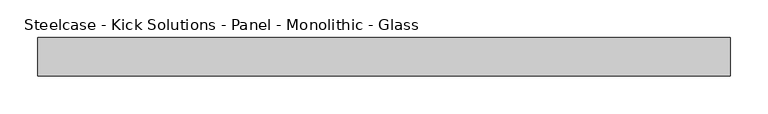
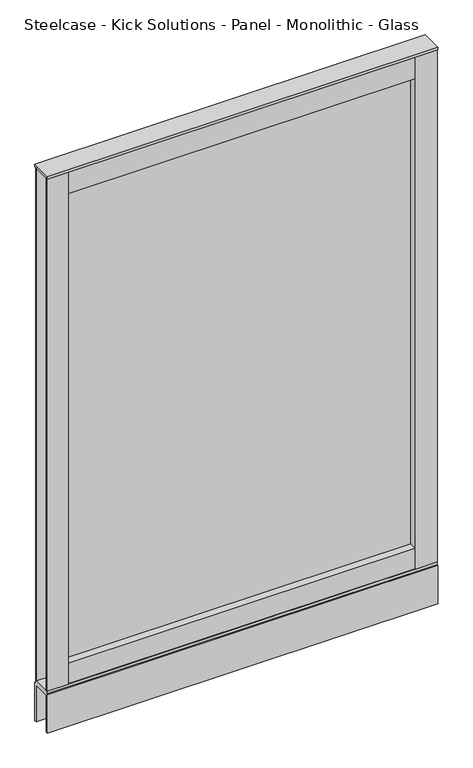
"""IFC4 building model written with IfcOpenShell, lengths in millimetres: furniture geometry, Steelcase - Kick Solutions - Panel - Monolithic - Glass : 54H x 36W."""

import ifcopenshell
import ifcopenshell.guid

model = None  # the IFC model being written
_history = None  # IfcOwnerHistory: only IFC2X3 demands one
_inside = {}  # id of a spatial element -> (the spatial element, [elements in it])
_under = {}  # id of a project, library or spatial element -> (it, [spatial elements below it])
_declared = {}  # id of a project -> (the project, [libraries it declares])
_typed = {}  # id of a type object -> (the type object, [elements of that type])
_made_of = {}  # id of a material, layer set ... -> (it, [elements and type objects made of it])


def new_model(schema):
    """Start an empty IFC model of exactly this schema.

    Asked for "IFC4X3", IfcOpenShell would pick the latest addendum, in which some entities
    have other attributes; the version numbers below select the first issue.
    IFC2X3 requires an IfcOwnerHistory on every rooted entity: one is made here for all.
    """
    global model, _history
    if schema == "IFC4X3":
        model = ifcopenshell.file(schema_version=(4, 3, 0, 0))
    else:
        model = ifcopenshell.file(schema=schema)
    _inside.clear()
    _under.clear()
    _declared.clear()
    _typed.clear()
    _made_of.clear()
    _history = None
    if model.schema == "IFC2X3":
        org = make("IfcOrganization", Name="unknown")
        user = make(
            "IfcPersonAndOrganization",
            ThePerson=make("IfcPerson", FamilyName="unknown"),
            TheOrganization=org,
        )
        app = make(
            "IfcApplication",
            ApplicationDeveloper=org,
            Version="unknown",
            ApplicationFullName="unknown",
            ApplicationIdentifier="unknown",
        )
        _history = make(
            "IfcOwnerHistory",
            OwningUser=user,
            OwningApplication=app,
            ChangeAction="ADDED",
            CreationDate=0,
        )
    return model


def make(cls, **values):
    """One entity of the class cls with the attributes given. An attribute that is None is left unset."""
    return model.create_entity(
        cls, **{name: value for name, value in values.items() if value is not None}
    )


def rooted(cls, **values):
    """An entity with a GlobalId (a new one), such as an element, a storey or a relation."""
    return make(cls, GlobalId=ifcopenshell.guid.new(), OwnerHistory=_history, **values)


def si_unit(unit_type, name, prefix=None):
    """IfcSIUnit, for example si_unit("LENGTHUNIT", "METRE", prefix="MILLI")."""
    return make("IfcSIUnit", UnitType=unit_type, Prefix=prefix, Name=name)


def assignment(units):
    """IfcUnitAssignment: the units of a project."""
    return None if units is None else make("IfcUnitAssignment", Units=units)


def point(xyz):
    """IfcCartesianPoint."""
    return None if xyz is None else make("IfcCartesianPoint", Coordinates=xyz)


def direction(xyz):
    """IfcDirection."""
    return None if xyz is None else make("IfcDirection", DirectionRatios=xyz)


def frame(location, z_axis=None, x_axis=None):
    """IfcAxis2Placement3D, a coordinate frame: its origin and axes. An axis left out is left unset."""
    return make(
        "IfcAxis2Placement3D",
        Location=point(location),
        Axis=direction(z_axis),
        RefDirection=direction(x_axis),
    )


def origin():
    """The frame at (0, 0, 0) with its axes left unset."""
    return frame((0.0, 0.0, 0.0))


def place(relative_to, where):
    """IfcLocalPlacement: puts the frame where relative to a parent placement (None: the world)."""
    return make(
        "IfcLocalPlacement", PlacementRelTo=relative_to, RelativePlacement=where
    )


def context(
    kind, dimensions, precision=None, world=None, true_north=None, identifier=None
):
    """IfcGeometricRepresentationContext, for example the 3D "Model" context."""
    return make(
        "IfcGeometricRepresentationContext",
        ContextIdentifier=identifier,
        ContextType=kind,
        CoordinateSpaceDimension=dimensions,
        Precision=precision,
        WorldCoordinateSystem=world,
        TrueNorth=true_north,
    )


def project(units=None, contexts=None):
    """IfcProject with its units and contexts."""
    return rooted(
        "IfcProject",
        Name="project",
        RepresentationContexts=contexts,
        UnitsInContext=assignment(units),
    )


def spatial(cls, under=None, at=None, **own):
    """A site, building, storey or space (cls), placed at a placement, below another one or the project."""
    s = rooted(cls, ObjectPlacement=at, **own)
    if under is not None:
        _under.setdefault(under.id(), (under, []))[1].append(s)
    return s


def polyline(points):
    """IfcPolyline through the points."""
    return make("IfcPolyline", Points=[point(p) for p in points])


def outline(outer, holes=None, kind="AREA"):
    """IfcArbitraryClosedProfileDef: a profile drawn as a closed curve; with holes, ...WithVoids."""
    if holes is None:
        return make("IfcArbitraryClosedProfileDef", ProfileType=kind, OuterCurve=outer)
    return make(
        "IfcArbitraryProfileDefWithVoids",
        ProfileType=kind,
        OuterCurve=outer,
        InnerCurves=holes,
    )


def extrude(swept, where, along, depth):
    """IfcExtrudedAreaSolid: the profile swept, set in the frame where, extruded along a direction by depth."""
    return make(
        "IfcExtrudedAreaSolid",
        SweptArea=swept,
        Position=where,
        ExtrudedDirection=direction(along),
        Depth=depth,
    )


def shape(context_of_items, identifier, shape_type, items):
    """IfcShapeRepresentation: the items that make up one representation, for example the "Body"."""
    return make(
        "IfcShapeRepresentation",
        ContextOfItems=context_of_items,
        RepresentationIdentifier=identifier,
        RepresentationType=shape_type,
        Items=items,
    )


def source(mapping_origin, context_of_items, identifier, shape_type, items):
    """IfcRepresentationMap: a shape defined once, which mapped items show again and again."""
    return make(
        "IfcRepresentationMap",
        MappingOrigin=mapping_origin,
        MappedRepresentation=shape(context_of_items, identifier, shape_type, items),
    )


def transform(
    local_origin,
    x_axis=None,
    y_axis=None,
    z_axis=None,
    scale=None,
    scale2=None,
    scale3=None,
    uniform=True,
):
    """IfcCartesianTransformationOperator3D, or its non-uniform kind. x_axis, y_axis, z_axis: its Axis1, 2, 3."""
    if uniform:
        return make(
            "IfcCartesianTransformationOperator3D",
            Axis1=direction(x_axis),
            Axis2=direction(y_axis),
            LocalOrigin=point(local_origin),
            Scale=scale,
            Axis3=direction(z_axis),
        )
    return make(
        "IfcCartesianTransformationOperator3DnonUniform",
        Axis1=direction(x_axis),
        Axis2=direction(y_axis),
        LocalOrigin=point(local_origin),
        Scale=scale,
        Axis3=direction(z_axis),
        Scale2=scale2,
        Scale3=scale3,
    )


def mapped(mapping_source, mapping_target):
    """IfcMappedItem: shows the shape of a source again, moved by a transform."""
    return make(
        "IfcMappedItem", MappingSource=mapping_source, MappingTarget=mapping_target
    )


def made_of(thing, what):
    """Note that an element or type object is made of a material, layer set ...; save() writes the relation."""
    if what is not None:
        _made_of.setdefault(what.id(), (what, []))[1].append(thing)
    return thing


def element(
    cls,
    number,
    at=None,
    inside=None,
    cuts=None,
    type_object=None,
    material=None,
    context=None,
    identifier="Body",
    shape_type=None,
    held_by="IfcProductDefinitionShape",
    body=None,
    shapes=None,
    **own,
):
    """One element of the class cls, such as IfcWall. Its Tag is "e" and its number.

    at: its placement. inside: the storey or other place that contains it. cuts: it is an
    opening in that element (IfcRelVoidsElement). A single representation is given by context,
    identifier, shape_type and body (its items); several are given by shapes. held_by: the class
    of the entity that holds the representations. save() writes the other relations.
    """
    e = rooted(cls, Tag="e%d" % number, ObjectPlacement=at, **own)
    if body is not None:
        shapes = [shape(context, identifier, shape_type, body)]
    if shapes is not None:
        e.Representation = make(held_by, Representations=shapes)
    if inside is not None:
        _inside.setdefault(inside.id(), (inside, []))[1].append(e)
    if cuts is not None:
        rooted(
            "IfcRelVoidsElement", RelatingBuildingElement=cuts, RelatedOpeningElement=e
        )
    if type_object is not None:
        _typed.setdefault(type_object.id(), (type_object, []))[1].append(e)
    return made_of(e, material)


def aggregate(whole, parts):
    """IfcRelAggregates: a whole, such as a stair, and the parts it consists of."""
    return rooted("IfcRelAggregates", RelatingObject=whole, RelatedObjects=parts)


def save(model, path):
    """Write the relations noted so far, then the file.

    IfcRelAggregates (storeys below a building ...), IfcRelContainedInSpatialStructure (elements
    in a storey), IfcRelDefinesByType, IfcRelAssociatesMaterial and IfcRelDeclares: one each for
    every whole, place, type object, material and project.
    """
    for whole, parts in _under.values():
        aggregate(whole, parts)
    for where, things in _inside.values():
        rooted(
            "IfcRelContainedInSpatialStructure",
            RelatedElements=things,
            RelatingStructure=where,
        )
    for kind, things in _typed.values():
        rooted("IfcRelDefinesByType", RelatedObjects=things, RelatingType=kind)
    for what, things in _made_of.values():
        rooted("IfcRelAssociatesMaterial", RelatedObjects=things, RelatingMaterial=what)
    for by, libraries in _declared.values():
        rooted("IfcRelDeclares", RelatingContext=by, RelatedDefinitions=libraries)
    model.write(path)


def steelcase_kick_solutions_panel_monolithic_glass_4193e496(model_context):
    return source(origin(), model_context, "Body", "SweptSolid", [
        extrude(outline(polyline([(863.6006661, -5.08), (863.6006661, -45.7200015), (50.8006646, -45.7200015), (50.8006646, -5.08), (863.6006661, -5.08)])), frame((0.0, 0.0, 101.7169049), z_axis=(0.0, 0.0, 1.0), x_axis=(1.0, 0.0, 0.0)), (0.0, 0.0, 1.0), 50.6830951),
        extrude(outline(polyline([(863.6006661, -5.08), (863.6006661, -45.7200015), (50.8006646, -45.7200015), (50.8006646, -5.08), (863.6006661, -5.08)])), frame((0.0, 0.0, 1314.45), z_axis=(0.0, 0.0, 1.0), x_axis=(1.0, 0.0, 0.0)), (0.0, 0.0, 1.0), 57.15),
        extrude(outline(polyline([(50.8006646, -3.1743148), (50.8006646, -47.6243142), (0.0, -47.6243142), (0.0, -45.7200015), (47.7526646, -45.7200015), (47.7526646, -5.08), (0.0, -5.08), (0.0, -3.1743148), (50.8006646, -3.1743148)])), frame((0.0, 0.0, 101.7169049), z_axis=(0.0, 0.0, 1.0), x_axis=(1.0, 0.0, 0.0)), (0.0, 0.0, 1.0), 1269.8830951),
        extrude(outline(polyline([(863.6006661, -3.1743148), (914.4, -3.1743148), (914.4, -5.08), (866.6486661, -5.08), (866.6486661, -45.7200015), (914.4, -45.7200015), (914.4, -47.6243142), (863.6006661, -47.6243142), (863.6006661, -3.1743148)])), frame((0.0, 0.0, 101.7169049), z_axis=(0.0, 0.0, 1.0), x_axis=(1.0, 0.0, 0.0)), (0.0, 0.0, 1.0), 1269.8830951),
        extrude(outline(polyline([(863.6006661, -28.422537), (50.8006646, -28.422537), (50.8006646, -25.4), (863.6006661, -25.4), (863.6006661, -28.422537)])), frame((0.0, 0.0, 152.4), z_axis=(0.0, 0.0, 1.0), x_axis=(1.0, 0.0, 0.0)), (0.0, 0.0, 1.0), 1162.05),
        extrude(outline(polyline([(914.4, 0.0), (914.4, -50.8000015), (0.0, -50.8000015), (0.0, 0.0), (914.4, 0.0)])), frame((0.0, 0.0, 1371.6), z_axis=(0.0, 0.0, 1.0), x_axis=(1.0, 0.0, 0.0)), (0.0, 0.0, 1.0), 6.35),
        extrude(outline(polyline([(0.0, 0.0), (-5.08, 0.0), (-5.08, 90.2869018), (-45.7200015, 90.2869018), (-45.7200015, 0.0), (-50.8000015, 0.0), (-50.8000015, 95.3669018), (-47.6243142, 95.3669018), (-47.6243142, 101.7169049), (-3.1743148, 101.7169049), (-3.1743148, 95.3669018), (0.0, 95.3669018), (0.0, 0.0)])), frame((0.0, 0.0, 0.0), z_axis=(1.0, 0.0, 0.0), x_axis=(0.0, 1.0, 0.0)), (0.0, 0.0, 1.0), 914.4),
    ])


if __name__ == "__main__":
    model = new_model("IFC4")
    model_context = context("Model", 3, world=origin())
    ifc_project = project(units=[si_unit("LENGTHUNIT", "METRE", prefix="MILLI")], contexts=[model_context])
    site = spatial("IfcSite", under=ifc_project)
    building = spatial("IfcBuilding", under=site)
    placement = place(None, origin())
    steelcase_kick_solutions_panel_monolithic_glass_shape = steelcase_kick_solutions_panel_monolithic_glass_4193e496(model_context)
    element("IfcFurniture", 1, ObjectType="Steelcase - Kick Solutions - Panel - Monolithic - Glass : 54H x 36W", at=placement, inside=building, context=model_context, shape_type="MappedRepresentation", body=[
        mapped(steelcase_kick_solutions_panel_monolithic_glass_shape, transform((0.0, 0.0, 0.0), x_axis=(1.0, 0.0, 0.0), y_axis=(0.0, 1.0, 0.0), z_axis=(0.0, 0.0, 1.0))),
    ])
    save(model, "model.ifc")
